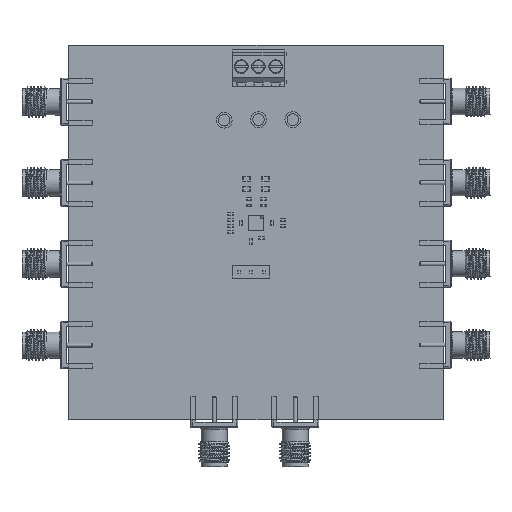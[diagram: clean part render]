
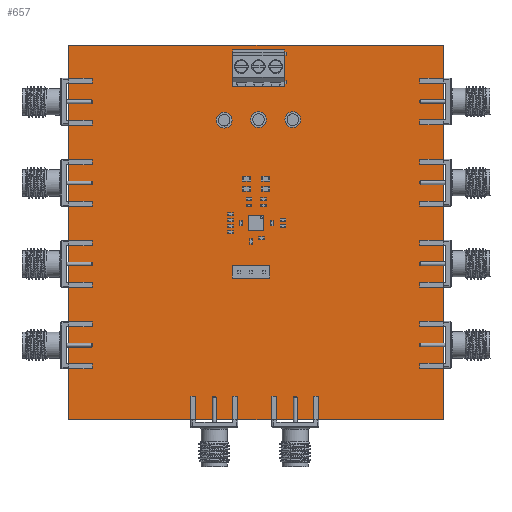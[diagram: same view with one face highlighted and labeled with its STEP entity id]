
A CAD part, top view. The second image highlights one B-rep face of the part: STEP entity #657.
In plain terms, the highlighted planar face has unit normal (0, 0, 1).
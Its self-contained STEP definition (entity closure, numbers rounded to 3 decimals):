
#204 = VERTEX_POINT('',#205);
#205 = CARTESIAN_POINT('',(0.,0.,1.59));
#211 = EDGE_CURVE('',#204,#212,#214,.T.);
#212 = VERTEX_POINT('',#213);
#213 = CARTESIAN_POINT('',(0.,76.2,1.59));
#214 = LINE('',#215,#216);
#215 = CARTESIAN_POINT('',(0.,0.,1.59));
#216 = VECTOR('',#217,1.);
#217 = DIRECTION('',(0.,1.,0.));
#242 = EDGE_CURVE('',#212,#243,#245,.T.);
#243 = VERTEX_POINT('',#244);
#244 = CARTESIAN_POINT('',(76.2,76.2,1.59));
#245 = LINE('',#246,#247);
#246 = CARTESIAN_POINT('',(0.,76.2,1.59));
#247 = VECTOR('',#248,1.);
#248 = DIRECTION('',(1.,0.,0.));
#273 = EDGE_CURVE('',#243,#274,#276,.T.);
#274 = VERTEX_POINT('',#275);
#275 = CARTESIAN_POINT('',(76.2,0.,1.59));
#276 = LINE('',#277,#278);
#277 = CARTESIAN_POINT('',(76.2,76.2,1.59));
#278 = VECTOR('',#279,1.);
#279 = DIRECTION('',(0.,-1.,0.));
#304 = EDGE_CURVE('',#274,#204,#305,.T.);
#305 = LINE('',#306,#307);
#306 = CARTESIAN_POINT('',(76.2,0.,1.59));
#307 = VECTOR('',#308,1.);
#308 = DIRECTION('',(-1.,0.,0.));
#328 = VERTEX_POINT('',#329);
#329 = CARTESIAN_POINT('',(35.077,30.124,1.59));
#335 = EDGE_CURVE('',#328,#328,#336,.T.);
#336 = CIRCLE('',#337,0.508);
#337 = AXIS2_PLACEMENT_3D('',#338,#339,#340);
#338 = CARTESIAN_POINT('',(34.569,30.124,1.59));
#339 = DIRECTION('',(0.,0.,1.));
#340 = DIRECTION('',(1.,0.,-0.));
#361 = VERTEX_POINT('',#362);
#362 = CARTESIAN_POINT('',(37.617,30.124,1.59));
#368 = EDGE_CURVE('',#361,#361,#369,.T.);
#369 = CIRCLE('',#370,0.508);
#370 = AXIS2_PLACEMENT_3D('',#371,#372,#373);
#371 = CARTESIAN_POINT('',(37.109,30.124,1.59));
#372 = DIRECTION('',(0.,0.,1.));
#373 = DIRECTION('',(1.,0.,-0.));
#394 = VERTEX_POINT('',#395);
#395 = CARTESIAN_POINT('',(32.876,60.967,1.59));
#401 = EDGE_CURVE('',#394,#394,#402,.T.);
#402 = CIRCLE('',#403,1.25);
#403 = AXIS2_PLACEMENT_3D('',#404,#405,#406);
#404 = CARTESIAN_POINT('',(31.626,60.967,1.59));
#405 = DIRECTION('',(0.,0.,1.));
#406 = DIRECTION('',(1.,0.,-0.));
#427 = VERTEX_POINT('',#428);
#428 = CARTESIAN_POINT('',(35.75,71.882,1.59));
#434 = EDGE_CURVE('',#427,#427,#435,.T.);
#435 = CIRCLE('',#436,0.65);
#436 = AXIS2_PLACEMENT_3D('',#437,#438,#439);
#437 = CARTESIAN_POINT('',(35.1,71.882,1.59));
#438 = DIRECTION('',(0.,0.,1.));
#439 = DIRECTION('',(1.,0.,-0.));
#460 = VERTEX_POINT('',#461);
#461 = CARTESIAN_POINT('',(39.86,61.087,1.59));
#467 = EDGE_CURVE('',#460,#460,#468,.T.);
#468 = CIRCLE('',#469,1.25);
#469 = AXIS2_PLACEMENT_3D('',#470,#471,#472);
#470 = CARTESIAN_POINT('',(38.61,61.087,1.59));
#471 = DIRECTION('',(0.,0.,1.));
#472 = DIRECTION('',(1.,0.,-0.));
#493 = VERTEX_POINT('',#494);
#494 = CARTESIAN_POINT('',(40.157,30.124,1.59));
#500 = EDGE_CURVE('',#493,#493,#501,.T.);
#501 = CIRCLE('',#502,0.508);
#502 = AXIS2_PLACEMENT_3D('',#503,#504,#505);
#503 = CARTESIAN_POINT('',(39.649,30.124,1.59));
#504 = DIRECTION('',(0.,0.,1.));
#505 = DIRECTION('',(1.,0.,-0.));
#526 = VERTEX_POINT('',#527);
#527 = CARTESIAN_POINT('',(39.25,71.882,1.59));
#533 = EDGE_CURVE('',#526,#526,#534,.T.);
#534 = CIRCLE('',#535,0.65);
#535 = AXIS2_PLACEMENT_3D('',#536,#537,#538);
#536 = CARTESIAN_POINT('',(38.6,71.882,1.59));
#537 = DIRECTION('',(0.,0.,1.));
#538 = DIRECTION('',(1.,0.,-0.));
#559 = VERTEX_POINT('',#560);
#560 = CARTESIAN_POINT('',(46.843,61.087,1.59));
#566 = EDGE_CURVE('',#559,#559,#567,.T.);
#567 = CIRCLE('',#568,1.25);
#568 = AXIS2_PLACEMENT_3D('',#569,#570,#571);
#569 = CARTESIAN_POINT('',(45.593,61.087,1.59));
#570 = DIRECTION('',(0.,0.,1.));
#571 = DIRECTION('',(1.,0.,-0.));
#592 = VERTEX_POINT('',#593);
#593 = CARTESIAN_POINT('',(42.75,71.882,1.59));
#599 = EDGE_CURVE('',#592,#592,#600,.T.);
#600 = CIRCLE('',#601,0.65);
#601 = AXIS2_PLACEMENT_3D('',#602,#603,#604);
#602 = CARTESIAN_POINT('',(42.1,71.882,1.59));
#603 = DIRECTION('',(0.,0.,1.));
#604 = DIRECTION('',(1.,0.,-0.));
#657 = ADVANCED_FACE('',(#658,#664,#667,#670,#673,#676,#679,#682,#685,
    #688),#691,.F.);
#658 = FACE_BOUND('',#659,.F.);
#659 = EDGE_LOOP('',(#660,#661,#662,#663));
#660 = ORIENTED_EDGE('',*,*,#211,.T.);
#661 = ORIENTED_EDGE('',*,*,#242,.T.);
#662 = ORIENTED_EDGE('',*,*,#273,.T.);
#663 = ORIENTED_EDGE('',*,*,#304,.T.);
#664 = FACE_BOUND('',#665,.F.);
#665 = EDGE_LOOP('',(#666));
#666 = ORIENTED_EDGE('',*,*,#335,.T.);
#667 = FACE_BOUND('',#668,.F.);
#668 = EDGE_LOOP('',(#669));
#669 = ORIENTED_EDGE('',*,*,#368,.T.);
#670 = FACE_BOUND('',#671,.F.);
#671 = EDGE_LOOP('',(#672));
#672 = ORIENTED_EDGE('',*,*,#401,.T.);
#673 = FACE_BOUND('',#674,.F.);
#674 = EDGE_LOOP('',(#675));
#675 = ORIENTED_EDGE('',*,*,#434,.T.);
#676 = FACE_BOUND('',#677,.F.);
#677 = EDGE_LOOP('',(#678));
#678 = ORIENTED_EDGE('',*,*,#467,.T.);
#679 = FACE_BOUND('',#680,.F.);
#680 = EDGE_LOOP('',(#681));
#681 = ORIENTED_EDGE('',*,*,#500,.T.);
#682 = FACE_BOUND('',#683,.F.);
#683 = EDGE_LOOP('',(#684));
#684 = ORIENTED_EDGE('',*,*,#533,.T.);
#685 = FACE_BOUND('',#686,.F.);
#686 = EDGE_LOOP('',(#687));
#687 = ORIENTED_EDGE('',*,*,#566,.T.);
#688 = FACE_BOUND('',#689,.F.);
#689 = EDGE_LOOP('',(#690));
#690 = ORIENTED_EDGE('',*,*,#599,.T.);
#691 = PLANE('',#692);
#692 = AXIS2_PLACEMENT_3D('',#693,#694,#695);
#693 = CARTESIAN_POINT('',(38.1,38.1,1.59));
#694 = DIRECTION('',(-0.,-0.,-1.));
#695 = DIRECTION('',(-1.,0.,0.));
